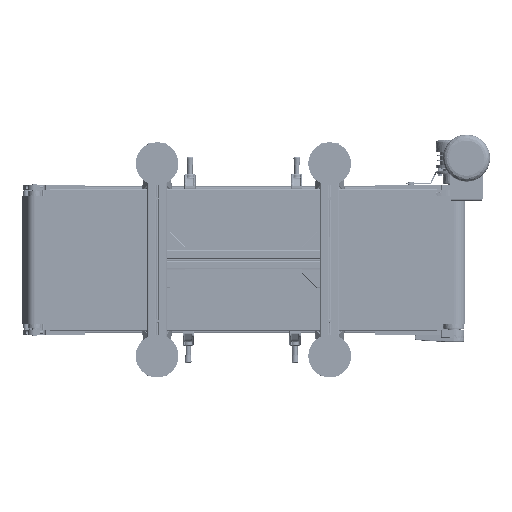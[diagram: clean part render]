
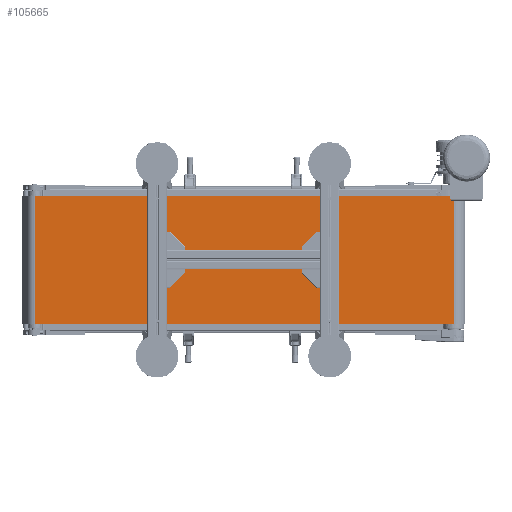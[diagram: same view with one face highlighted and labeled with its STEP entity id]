
A CAD part, front view. The second image highlights one B-rep face of the part: STEP entity #105665.
In plain terms, the highlighted planar face has unit normal (0, -1, 0).
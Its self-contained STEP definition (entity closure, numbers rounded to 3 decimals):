
#13067 = ORIENTED_EDGE ( 'NONE', *, *, #212148, .T. ) ;
#21659 = ORIENTED_EDGE ( 'NONE', *, *, #234814, .F. ) ;
#24494 = CARTESIAN_POINT ( 'NONE',  ( -488., -27., 150. ) ) ;
#37832 = PLANE ( 'NONE',  #181654 ) ;
#42925 = DIRECTION ( 'NONE',  ( 0., 1., 0. ) ) ;
#48108 = CARTESIAN_POINT ( 'NONE',  ( -488., -27., -150. ) ) ;
#78172 = CARTESIAN_POINT ( 'NONE',  ( -488., -27., 150. ) ) ;
#79297 = DIRECTION ( 'NONE',  ( 1., 0., 0. ) ) ;
#84600 = DIRECTION ( 'NONE',  ( 1., 0., 0. ) ) ;
#93871 = VERTEX_POINT ( 'NONE', #234329 ) ;
#103172 = EDGE_LOOP ( 'NONE', ( #105068, #211738, #21659, #13067 ) ) ;
#104692 = EDGE_CURVE ( 'NONE', #93871, #161613, #163901, .T. ) ;
#105068 = ORIENTED_EDGE ( 'NONE', *, *, #104692, .T. ) ;
#105665 = ADVANCED_FACE ( 'NONE', ( #137997 ), #37832, .F. ) ;
#112832 = VERTEX_POINT ( 'NONE', #181866 ) ;
#120896 = LINE ( 'NONE', #24494, #130785 ) ;
#123192 = VECTOR ( 'NONE', #84600, 1000. ) ;
#130785 = VECTOR ( 'NONE', #79297, 1000. ) ;
#135048 = VECTOR ( 'NONE', #206567, 1000. ) ;
#137313 = CARTESIAN_POINT ( 'NONE',  ( -488., -27., 150. ) ) ;
#137532 = EDGE_CURVE ( 'NONE', #112832, #161613, #146721, .T. ) ;
#137997 = FACE_OUTER_BOUND ( 'NONE', #103172, .T. ) ;
#146721 = LINE ( 'NONE', #205265, #135048 ) ;
#161613 = VERTEX_POINT ( 'NONE', #255925 ) ;
#163901 = LINE ( 'NONE', #48108, #123192 ) ;
#181654 = AXIS2_PLACEMENT_3D ( 'NONE', #78172, #42925, #200372 ) ;
#181866 = CARTESIAN_POINT ( 'NONE',  ( 492., -27., 150. ) ) ;
#183153 = CARTESIAN_POINT ( 'NONE',  ( -488., -27., 150. ) ) ;
#185807 = VERTEX_POINT ( 'NONE', #183153 ) ;
#194569 = LINE ( 'NONE', #137313, #245524 ) ;
#200372 = DIRECTION ( 'NONE',  ( -1., 0., 0. ) ) ;
#205265 = CARTESIAN_POINT ( 'NONE',  ( 492., -27., 150. ) ) ;
#206567 = DIRECTION ( 'NONE',  ( 0., 0., -1. ) ) ;
#211738 = ORIENTED_EDGE ( 'NONE', *, *, #137532, .F. ) ;
#212148 = EDGE_CURVE ( 'NONE', #185807, #93871, #194569, .T. ) ;
#234329 = CARTESIAN_POINT ( 'NONE',  ( -488., -27., -150. ) ) ;
#234814 = EDGE_CURVE ( 'NONE', #185807, #112832, #120896, .T. ) ;
#234926 = DIRECTION ( 'NONE',  ( 0., 0., -1. ) ) ;
#245524 = VECTOR ( 'NONE', #234926, 1000. ) ;
#255925 = CARTESIAN_POINT ( 'NONE',  ( 492., -27., -150. ) ) ;
